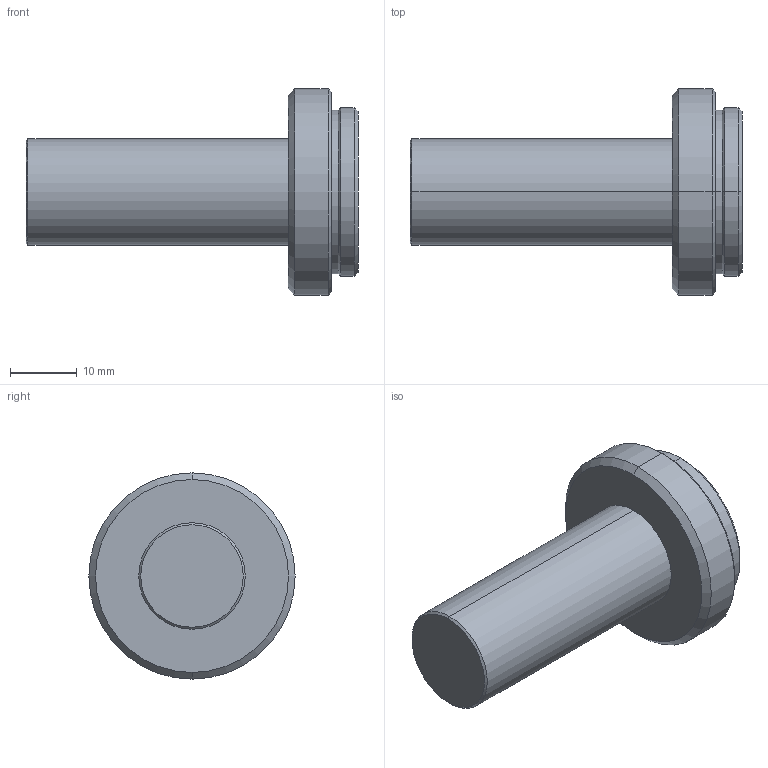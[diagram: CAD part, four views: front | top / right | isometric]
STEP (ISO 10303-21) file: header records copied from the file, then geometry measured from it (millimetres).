
FILE_DESCRIPTION (( 'STEP AP203' ), '1' );
FILE_NAME ('VS-TC4-40.STEP', '2020-02-13T00:31:39', ( '' ), ( '' ), 'SwSTEP 2.0', 'SolidWorks 2017', '' );
FILE_SCHEMA (( 'CONFIG_CONTROL_DESIGN' ));
Length unit declared in the file: millimetre
Products named in the file (1): VS-TC4-40
Bounding box: 49.9 x 31 x 31 mm (x, y, z)
Volume: 14740.9 mm3; surface area: 4359 mm2
Topology: 1 solids, 1 shells, 22 faces, 42 edges, 24 vertices
Faces by surface type: cone 10, cylinder 8, plane 4
Entity records: 631 total; most frequent: DIRECTION 112, CARTESIAN_POINT 89, ORIENTED_EDGE 84, AXIS2_PLACEMENT_3D 47, EDGE_CURVE 42, VERTEX_POINT 24, CIRCLE 24, EDGE_LOOP 24
